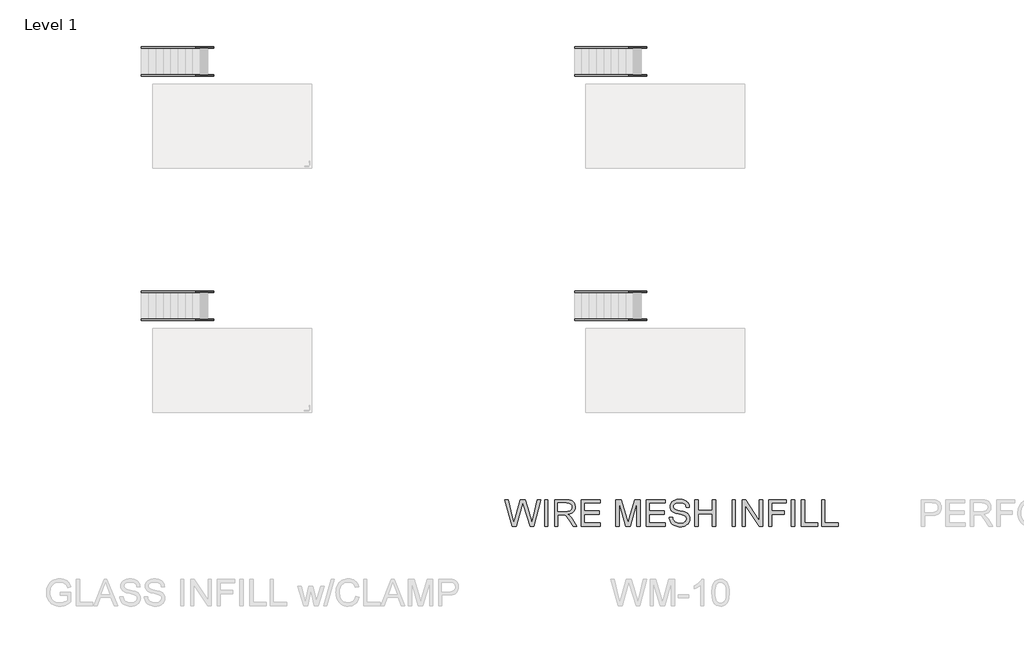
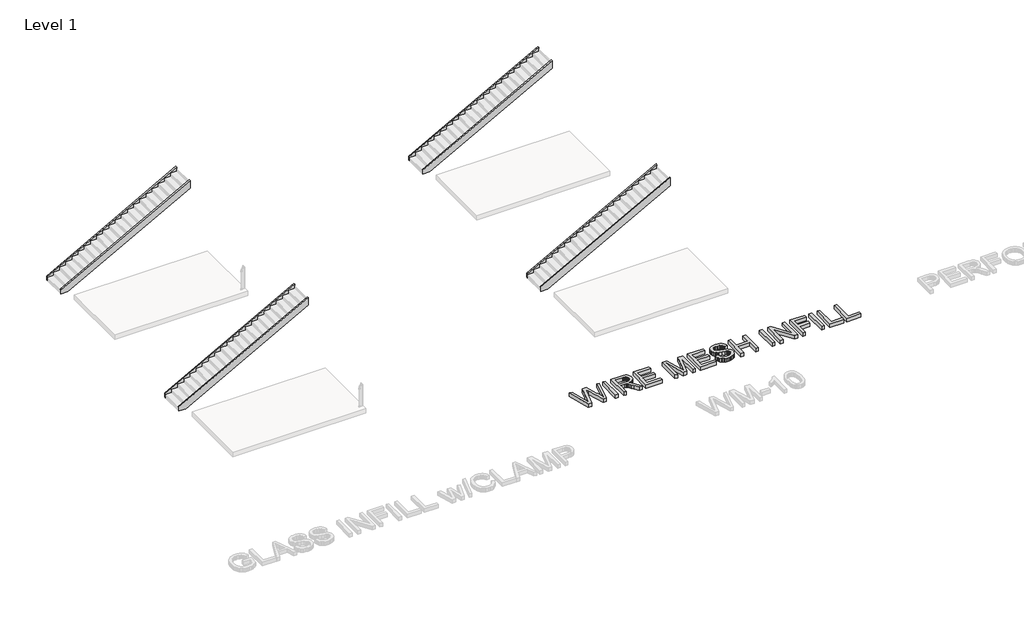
# One storey, part 4 of 8: 8 members, 1 proxy.
"""IFC4 building model written with IfcOpenShell, lengths in millimetres."""

import ifcopenshell
import ifcopenshell.guid

model = None  # the IFC model being written
_history = None  # IfcOwnerHistory: only IFC2X3 demands one
_inside = {}  # id of a spatial element -> (the spatial element, [elements in it])
_under = {}  # id of a project, library or spatial element -> (it, [spatial elements below it])
_declared = {}  # id of a project -> (the project, [libraries it declares])
_typed = {}  # id of a type object -> (the type object, [elements of that type])
_made_of = {}  # id of a material, layer set ... -> (it, [elements and type objects made of it])


def new_model(schema):
    """Start an empty IFC model of exactly this schema.

    Asked for "IFC4X3", IfcOpenShell would pick the latest addendum, in which some entities
    have other attributes; the version numbers below select the first issue.
    IFC2X3 requires an IfcOwnerHistory on every rooted entity: one is made here for all.
    """
    global model, _history
    if schema == "IFC4X3":
        model = ifcopenshell.file(schema_version=(4, 3, 0, 0))
    else:
        model = ifcopenshell.file(schema=schema)
    _inside.clear()
    _under.clear()
    _declared.clear()
    _typed.clear()
    _made_of.clear()
    _history = None
    if model.schema == "IFC2X3":
        org = make("IfcOrganization", Name="unknown")
        user = make(
            "IfcPersonAndOrganization",
            ThePerson=make("IfcPerson", FamilyName="unknown"),
            TheOrganization=org,
        )
        app = make(
            "IfcApplication",
            ApplicationDeveloper=org,
            Version="unknown",
            ApplicationFullName="unknown",
            ApplicationIdentifier="unknown",
        )
        _history = make(
            "IfcOwnerHistory",
            OwningUser=user,
            OwningApplication=app,
            ChangeAction="ADDED",
            CreationDate=0,
        )
    return model


def make(cls, **values):
    """One entity of the class cls with the attributes given. An attribute that is None is left unset."""
    return model.create_entity(
        cls, **{name: value for name, value in values.items() if value is not None}
    )


def rooted(cls, **values):
    """An entity with a GlobalId (a new one), such as an element, a storey or a relation."""
    return make(cls, GlobalId=ifcopenshell.guid.new(), OwnerHistory=_history, **values)


def si_unit(unit_type, name, prefix=None):
    """IfcSIUnit, for example si_unit("LENGTHUNIT", "METRE", prefix="MILLI")."""
    return make("IfcSIUnit", UnitType=unit_type, Prefix=prefix, Name=name)


def assignment(units):
    """IfcUnitAssignment: the units of a project."""
    return None if units is None else make("IfcUnitAssignment", Units=units)


def point(xyz):
    """IfcCartesianPoint."""
    return None if xyz is None else make("IfcCartesianPoint", Coordinates=xyz)


def direction(xyz):
    """IfcDirection."""
    return None if xyz is None else make("IfcDirection", DirectionRatios=xyz)


def frame(location, z_axis=None, x_axis=None):
    """IfcAxis2Placement3D, a coordinate frame: its origin and axes. An axis left out is left unset."""
    return make(
        "IfcAxis2Placement3D",
        Location=point(location),
        Axis=direction(z_axis),
        RefDirection=direction(x_axis),
    )


def origin():
    """The frame at (0, 0, 0) with its axes left unset."""
    return frame((0.0, 0.0, 0.0))


def place(relative_to, where):
    """IfcLocalPlacement: puts the frame where relative to a parent placement (None: the world)."""
    return make(
        "IfcLocalPlacement", PlacementRelTo=relative_to, RelativePlacement=where
    )


def context(
    kind, dimensions, precision=None, world=None, true_north=None, identifier=None
):
    """IfcGeometricRepresentationContext, for example the 3D "Model" context."""
    return make(
        "IfcGeometricRepresentationContext",
        ContextIdentifier=identifier,
        ContextType=kind,
        CoordinateSpaceDimension=dimensions,
        Precision=precision,
        WorldCoordinateSystem=world,
        TrueNorth=true_north,
    )


def project(units=None, contexts=None):
    """IfcProject with its units and contexts."""
    return rooted(
        "IfcProject",
        Name="project",
        RepresentationContexts=contexts,
        UnitsInContext=assignment(units),
    )


def spatial(cls, under=None, at=None, **own):
    """A site, building, storey or space (cls), placed at a placement, below another one or the project."""
    s = rooted(cls, ObjectPlacement=at, **own)
    if under is not None:
        _under.setdefault(under.id(), (under, []))[1].append(s)
    return s


def polyline(points):
    """IfcPolyline through the points."""
    return make("IfcPolyline", Points=[point(p) for p in points])


def outline(outer, holes=None, kind="AREA"):
    """IfcArbitraryClosedProfileDef: a profile drawn as a closed curve; with holes, ...WithVoids."""
    if holes is None:
        return make("IfcArbitraryClosedProfileDef", ProfileType=kind, OuterCurve=outer)
    return make(
        "IfcArbitraryProfileDefWithVoids",
        ProfileType=kind,
        OuterCurve=outer,
        InnerCurves=holes,
    )


def extrude(swept, where, along, depth):
    """IfcExtrudedAreaSolid: the profile swept, set in the frame where, extruded along a direction by depth."""
    return make(
        "IfcExtrudedAreaSolid",
        SweptArea=swept,
        Position=where,
        ExtrudedDirection=direction(along),
        Depth=depth,
    )


def faces_of(points, faces, orient=None, outer=None):
    """IfcFace entities. A face is a list of loops; a loop is a list of indices into points, from 0.

    orient and outer hold one flag for each loop. By default every Orientation is true, the
    first loop of a face is its IfcFaceOuterBound and the others are IfcFaceBound.
    """
    made = []
    for i, loops in enumerate(faces):
        bounds = []
        for j, loop in enumerate(loops):
            is_outer = j == 0 if outer is None else outer[i][j]
            bounds.append(
                make(
                    "IfcFaceOuterBound" if is_outer else "IfcFaceBound",
                    Bound=make("IfcPolyLoop", Polygon=[points[k] for k in loop]),
                    Orientation=True if orient is None else orient[i][j],
                )
            )
        made.append(make("IfcFace", Bounds=bounds))
    return made


def faceted_brep(points, faces, orient=None, outer=None, voids=None):
    """IfcFacetedBrep: a solid bounded by flat faces; with voids (closed shells), ...WithVoids."""
    shared = [point(p) for p in points]
    hull = make("IfcClosedShell", CfsFaces=faces_of(shared, faces, orient, outer))
    if voids is None:
        return make("IfcFacetedBrep", Outer=hull)
    return make(
        "IfcFacetedBrepWithVoids",
        Outer=hull,
        Voids=[
            make(cls, CfsFaces=faces_of(shared, fs, o, b)) for cls, fs, o, b in voids
        ],
    )


def shape(context_of_items, identifier, shape_type, items):
    """IfcShapeRepresentation: the items that make up one representation, for example the "Body"."""
    return make(
        "IfcShapeRepresentation",
        ContextOfItems=context_of_items,
        RepresentationIdentifier=identifier,
        RepresentationType=shape_type,
        Items=items,
    )


def made_of(thing, what):
    """Note that an element or type object is made of a material, layer set ...; save() writes the relation."""
    if what is not None:
        _made_of.setdefault(what.id(), (what, []))[1].append(thing)
    return thing


def element(
    cls,
    number,
    at=None,
    inside=None,
    cuts=None,
    type_object=None,
    material=None,
    context=None,
    identifier="Body",
    shape_type=None,
    held_by="IfcProductDefinitionShape",
    body=None,
    shapes=None,
    **own,
):
    """One element of the class cls, such as IfcWall. Its Tag is "e" and its number.

    at: its placement. inside: the storey or other place that contains it. cuts: it is an
    opening in that element (IfcRelVoidsElement). A single representation is given by context,
    identifier, shape_type and body (its items); several are given by shapes. held_by: the class
    of the entity that holds the representations. save() writes the other relations.
    """
    e = rooted(cls, Tag="e%d" % number, ObjectPlacement=at, **own)
    if body is not None:
        shapes = [shape(context, identifier, shape_type, body)]
    if shapes is not None:
        e.Representation = make(held_by, Representations=shapes)
    if inside is not None:
        _inside.setdefault(inside.id(), (inside, []))[1].append(e)
    if cuts is not None:
        rooted(
            "IfcRelVoidsElement", RelatingBuildingElement=cuts, RelatedOpeningElement=e
        )
    if type_object is not None:
        _typed.setdefault(type_object.id(), (type_object, []))[1].append(e)
    return made_of(e, material)


def aggregate(whole, parts):
    """IfcRelAggregates: a whole, such as a stair, and the parts it consists of."""
    return rooted("IfcRelAggregates", RelatingObject=whole, RelatedObjects=parts)


def save(model, path):
    """Write the relations noted so far, then the file.

    IfcRelAggregates (storeys below a building ...), IfcRelContainedInSpatialStructure (elements
    in a storey), IfcRelDefinesByType, IfcRelAssociatesMaterial and IfcRelDeclares: one each for
    every whole, place, type object, material and project.
    """
    for whole, parts in _under.values():
        aggregate(whole, parts)
    for where, things in _inside.values():
        rooted(
            "IfcRelContainedInSpatialStructure",
            RelatedElements=things,
            RelatingStructure=where,
        )
    for kind, things in _typed.values():
        rooted("IfcRelDefinesByType", RelatedObjects=things, RelatingType=kind)
    for what, things in _made_of.values():
        rooted("IfcRelAssociatesMaterial", RelatedObjects=things, RelatingMaterial=what)
    for by, libraries in _declared.values():
        rooted("IfcRelDeclares", RelatingContext=by, RelatedDefinitions=libraries)
    model.write(path)


model = new_model("IFC4")

# Units and contexts
model_context = context("Model", 3, world=origin())
ifc_project = project(units=[si_unit("LENGTHUNIT", "METRE", prefix="MILLI")], contexts=[model_context])

# Site, building, storey
site = spatial("IfcSite", under=ifc_project)
building = spatial("IfcBuilding", under=site)
storey = spatial("IfcBuildingStorey", under=building, Name="Level 1", Elevation=0.0)

# Proxy
placement = place(None, origin())
element("IfcBuildingElementProxy", 1, Name="36\" Arial", ObjectType="36\" Arial", at=placement, inside=storey, context=model_context, shape_type="Brep", body=[
    faceted_brep([(11048.623229, -17294.991279, 152.4), (11186.4814791, -17294.991279, 152.4), (11386.130563, -16610.1614606, 152.4), (11420.4835897, -16491.7104399, 152.4), (11451.0443992, -16590.0850164, 152.4), (11670.1007124, -17294.991279, 152.4), (11792.1208788, -17294.991279, 152.4), (12041.5149299, -16381.2899968, 152.4), (11923.733124, -16381.2899968, 152.4), (11777.8442963, -16987.1524681, 152.4), (11734.5684054, -17167.171251, 152.4), (11715.6491452, -17083.2405607, 152.4), (11693.0213196, -16999.4214063, 152.4), (11666.6849285, -16915.7137876, 152.4), (11636.6399721, -16832.1177047, 152.4), (11505.0277269, -16381.2899968, 152.4), (11335.2702377, -16381.2899968, 152.4), (11154.1360968, -17003.2136235, 152.4), (11106.3987739, -17167.171251, 152.4), (11061.7844535, -16981.7987497, 152.4), (10917.2340554, -16381.2899968, 152.4), (10799.4522494, -16381.2899968, 152.4), (11048.623229, -17294.991279, 0.0), (10799.4522494, -16381.2899968, 0.0), (10917.2340554, -16381.2899968, 0.0), (11061.7844535, -16981.7987497, 0.0), (11106.3987739, -17167.171251, 0.0), (11154.1360968, -17003.2136235, 0.0), (11335.2702377, -16381.2899968, 0.0), (11505.0277269, -16381.2899968, 0.0), (11636.6399721, -16832.1177047, 0.0), (11666.6849285, -16915.7137876, 0.0), (11693.0213196, -16999.4214063, 0.0), (11715.6491452, -17083.2405607, 0.0), (11734.5684054, -17167.171251, 0.0), (11777.8442963, -16987.1524681, 0.0), (11923.733124, -16381.2899968, 0.0), (12041.5149299, -16381.2899968, 0.0), (11792.1208788, -17294.991279, 0.0), (11670.1007124, -17294.991279, 0.0), (11451.0443992, -16590.0850164, 0.0), (11420.4835897, -16491.7104399, 0.0), (11386.130563, -16610.1614606, 0.0), (11186.4814791, -17294.991279, 0.0)], [[[0, 1, 2, 3, 4, 5, 6, 7, 8, 9, 10, 11, 12, 13, 14, 15, 16, 17, 18, 19, 20, 21]], [[22, 23, 24, 25, 26, 27, 28, 29, 30, 31, 32, 33, 34, 35, 36, 37, 38, 39, 40, 41, 42, 43]], [[3, 2, 42, 41]], [[4, 3, 41, 40]], [[5, 4, 40, 39]], [[6, 5, 39, 38]], [[7, 6, 38, 37]], [[8, 7, 37, 36]], [[9, 8, 36, 35]], [[10, 9, 35, 34]], [[11, 10, 34, 33]], [[12, 11, 33, 32]], [[13, 12, 32, 31]], [[14, 13, 31, 30]], [[15, 14, 30, 29]], [[16, 15, 29, 28]], [[17, 16, 28, 27]], [[18, 17, 27, 26]], [[19, 18, 26, 25]], [[20, 19, 25, 24]], [[21, 20, 24, 23]], [[0, 21, 23, 22]], [[1, 0, 22, 43]], [[2, 1, 43, 42]]]),
    faceted_brep([(12170.0041727, -17294.991279, 152.4), (12284.216833, -17294.991279, 152.4), (12284.216833, -16381.2899968, 152.4), (12170.0041727, -16381.2899968, 152.4), (12170.0041727, -17294.991279, 0.0), (12170.0041727, -16381.2899968, 0.0), (12284.216833, -16381.2899968, 0.0), (12284.216833, -17294.991279, 0.0)], [[[0, 1, 2, 3]], [[4, 5, 6, 7]], [[3, 2, 6, 5]], [[0, 3, 5, 4]], [[1, 0, 4, 7]], [[2, 1, 7, 6]]]),
    faceted_brep([(12512.6421536, -17294.991279, 152.4), (12626.8548139, -17294.991279, 152.4), (12626.8548139, -16895.2469681, 152.4), (12764.7130639, -16895.2469681, 152.4), (12830.9653298, -16899.2622569, 152.4), (12858.3752529, -16907.7110938, 152.4), (12885.2832649, -16921.0117381, 152.4), (12913.6970102, -16943.6813897, 152.4), (12945.6241333, -16980.2372485, 152.4), (12983.9366809, -17033.3282898, 152.4), (13031.5067001, -17105.6034889, 152.4), (13150.403864, -17294.991279, 152.4), (13283.1314672, -17294.991279, 152.4), (13130.773563, -17047.3818007, 152.4), (13084.9881167, -16985.3121274, 152.4), (13038.1988481, -16929.8230664, 152.4), (13010.9283448, -16905.5640297, 152.4), (12973.2850119, -16880.9703855, 152.4), (13033.758329, -16868.8826931, 152.4), (13085.7967512, -16850.6884156, 152.4), (13129.4002784, -16826.3875529, 152.4), (13164.5689107, -16795.9801051, 152.4), (13191.6511974, -16760.5953723, 152.4), (13210.9956879, -16721.3626542, 152.4), (13222.6023822, -16678.2819511, 152.4), (13226.4712803, -16631.3532628, 152.4), (13224.1359995, -16594.3582318, 152.4), (13217.130157, -16558.9944119, 152.4), (13205.4537528, -16525.261803, 152.4), (13189.1067869, -16493.1604053, 152.4), (13168.8490971, -16464.2447489, 152.4), (13145.4405208, -16440.069364, 152.4), (13118.8810582, -16420.6342507, 152.4), (13089.1707092, -16405.9394089, 152.4), (13054.2809164, -16395.1552911, 152.4), (13012.1831225, -16387.4523498, 152.4), (12962.8773275, -16382.8305851, 152.4), (12906.3635313, -16381.2899968, 152.4), (12512.6421536, -16381.2899968, 152.4), (12626.8548139, -16781.0343078, 152.4), (12626.8548139, -16495.5026571, 152.4), (12911.2711065, -16495.5026571, 152.4), (12959.9634547, -16497.9703867, 152.4), (13001.6429893, -16505.3735755, 152.4), (13036.3097105, -16517.7122235, 152.4), (13063.9636182, -16534.9863307, 152.4), (13085.0926815, -16556.0805391, 152.4), (13100.1848696, -16579.8794906, 152.4), (13109.2401824, -16606.3831853, 152.4), (13112.25862, -16635.5916232, 152.4), (13110.6762058, -16656.1630075, 152.4), (13105.9289633, -16675.9396993, 152.4), (13098.0168924, -16694.9216984, 152.4), (13086.9399932, -16713.109005, 152.4), (13072.8167724, -16729.6860134, 152.4), (13055.7657368, -16743.8371181, 152.4), (13035.7868864, -16755.5623192, 152.4), (13012.8802213, -16764.8616166, 152.4), (12955.9133109, -16776.991135, 152.4), (12882.4948699, -16781.0343078, 152.4), (12512.6421536, -17294.991279, 0.0), (12512.6421536, -16381.2899968, 0.0), (12906.3635313, -16381.2899968, 0.0), (12962.8773275, -16382.8305851, 0.0), (13012.1831225, -16387.4523498, 0.0), (13054.2809164, -16395.1552911, 0.0), (13089.1707092, -16405.9394089, 0.0), (13118.8810582, -16420.6342507, 0.0), (13145.4405208, -16440.069364, 0.0), (13168.8490971, -16464.2447489, 0.0), (13189.1067869, -16493.1604053, 0.0), (13205.4537528, -16525.261803, 0.0), (13217.130157, -16558.9944119, 0.0), (13224.1359995, -16594.3582318, 0.0), (13226.4712803, -16631.3532628, 0.0), (13222.6023822, -16678.2819511, 0.0), (13210.9956879, -16721.3626542, 0.0), (13191.6511974, -16760.5953723, 0.0), (13164.5689107, -16795.9801051, 0.0), (13129.4002784, -16826.3875529, 0.0), (13085.7967512, -16850.6884156, 0.0), (13033.758329, -16868.8826931, 0.0), (12973.2850119, -16880.9703855, 0.0), (13010.9283448, -16905.5640297, 0.0), (13038.1988481, -16929.8230664, 0.0), (13084.9881167, -16985.3121274, 0.0), (13130.773563, -17047.3818007, 0.0), (13283.1314672, -17294.991279, 0.0), (13150.403864, -17294.991279, 0.0), (13031.5067001, -17105.6034889, 0.0), (12983.9366809, -17033.3282898, 0.0), (12945.6241333, -16980.2372485, 0.0), (12913.6970102, -16943.6813897, 0.0), (12885.2832649, -16921.0117381, 0.0), (12858.3752529, -16907.7110938, 0.0), (12830.9653298, -16899.2622569, 0.0), (12764.7130639, -16895.2469681, 0.0), (12626.8548139, -16895.2469681, 0.0), (12626.8548139, -17294.991279, 0.0), (12626.8548139, -16781.0343078, 0.0), (12882.4948699, -16781.0343078, 0.0), (12955.9133109, -16776.991135, 0.0), (13012.8802213, -16764.8616166, 0.0), (13035.7868864, -16755.5623192, 0.0), (13055.7657368, -16743.8371181, 0.0), (13072.8167724, -16729.6860134, 0.0), (13086.9399932, -16713.109005, 0.0), (13098.0168924, -16694.9216984, 0.0), (13105.9289633, -16675.9396993, 0.0), (13110.6762058, -16656.1630075, 0.0), (13112.25862, -16635.5916232, 0.0), (13109.2401824, -16606.3831853, 0.0), (13100.1848696, -16579.8794906, 0.0), (13085.0926815, -16556.0805391, 0.0), (13063.9636182, -16534.9863307, 0.0), (13036.3097105, -16517.7122235, 0.0), (13001.6429893, -16505.3735755, 0.0), (12959.9634547, -16497.9703867, 0.0), (12911.2711065, -16495.5026571, 0.0), (12626.8548139, -16495.5026571, 0.0)], [[[0, 1, 2, 3, 4, 5, 6, 7, 8, 9, 10, 11, 12, 13, 14, 15, 16, 17, 18, 19, 20, 21, 22, 23, 24, 25, 26, 27, 28, 29, 30, 31, 32, 33, 34, 35, 36, 37, 38], [39, 40, 41, 42, 43, 44, 45, 46, 47, 48, 49, 50, 51, 52, 53, 54, 55, 56, 57, 58, 59]], [[60, 61, 62, 63, 64, 65, 66, 67, 68, 69, 70, 71, 72, 73, 74, 75, 76, 77, 78, 79, 80, 81, 82, 83, 84, 85, 86, 87, 88, 89, 90, 91, 92, 93, 94, 95, 96, 97, 98], [99, 100, 101, 102, 103, 104, 105, 106, 107, 108, 109, 110, 111, 112, 113, 114, 115, 116, 117, 118, 119]], [[7, 6, 93, 92]], [[8, 7, 92, 91]], [[9, 8, 91, 90]], [[10, 9, 90, 89]], [[11, 10, 89, 88]], [[12, 11, 88, 87]], [[13, 12, 87, 86]], [[14, 13, 86, 85]], [[15, 14, 85, 84]], [[16, 15, 84, 83]], [[17, 16, 83, 82]], [[18, 17, 82, 81]], [[19, 18, 81, 80]], [[20, 19, 80, 79]], [[21, 20, 79, 78]], [[22, 21, 78, 77]], [[23, 22, 77, 76]], [[24, 23, 76, 75]], [[25, 24, 75, 74]], [[26, 25, 74, 73]], [[27, 26, 73, 72]], [[28, 27, 72, 71]], [[29, 28, 71, 70]], [[30, 29, 70, 69]], [[31, 30, 69, 68]], [[32, 31, 68, 67]], [[33, 32, 67, 66]], [[34, 33, 66, 65]], [[35, 34, 65, 64]], [[36, 35, 64, 63]], [[37, 36, 63, 62]], [[38, 37, 62, 61]], [[0, 38, 61, 60]], [[50, 49, 110, 109]], [[51, 50, 109, 108]], [[52, 51, 108, 107]], [[53, 52, 107, 106]], [[54, 53, 106, 105]], [[55, 54, 105, 104]], [[56, 55, 104, 103]], [[57, 56, 103, 102]], [[58, 57, 102, 101]], [[59, 58, 101, 100]], [[39, 59, 100, 99]], [[1, 0, 60, 98]], [[2, 1, 98, 97]], [[3, 2, 97, 96]], [[4, 3, 96, 95]], [[5, 4, 95, 94]], [[6, 5, 94, 93]], [[40, 39, 99, 119]], [[41, 40, 119, 118]], [[42, 41, 118, 117]], [[43, 42, 117, 116]], [[44, 43, 116, 115]], [[45, 44, 115, 114]], [[46, 45, 114, 113]], [[47, 46, 113, 112]], [[48, 47, 112, 111]], [[49, 48, 111, 110]]]),
    faceted_brep([(13426.3434358, -17294.991279, 152.4), (14097.3428149, -17294.991279, 152.4), (14097.3428149, -17180.7786188, 152.4), (13540.5560961, -17180.7786188, 152.4), (13540.5560961, -16880.9703855, 152.4), (14054.5130673, -16880.9703855, 152.4), (14054.5130673, -16766.7577253, 152.4), (13540.5560961, -16766.7577253, 152.4), (13540.5560961, -16495.5026571, 152.4), (14083.0662324, -16495.5026571, 152.4), (14083.0662324, -16381.2899968, 152.4), (13426.3434358, -16381.2899968, 152.4), (13426.3434358, -17294.991279, 0.0), (13426.3434358, -16381.2899968, 0.0), (14083.0662324, -16381.2899968, 0.0), (14083.0662324, -16495.5026571, 0.0), (13540.5560961, -16495.5026571, 0.0), (13540.5560961, -16766.7577253, 0.0), (14054.5130673, -16766.7577253, 0.0), (14054.5130673, -16880.9703855, 0.0), (13540.5560961, -16880.9703855, 0.0), (13540.5560961, -17180.7786188, 0.0), (14097.3428149, -17180.7786188, 0.0), (14097.3428149, -17294.991279, 0.0)], [[[0, 1, 2, 3, 4, 5, 6, 7, 8, 9, 10, 11]], [[12, 13, 14, 15, 16, 17, 18, 19, 20, 21, 22, 23]], [[11, 10, 14, 13]], [[0, 11, 13, 12]], [[1, 0, 12, 23]], [[2, 1, 23, 22]], [[3, 2, 22, 21]], [[4, 3, 21, 20]], [[5, 4, 20, 19]], [[6, 5, 19, 18]], [[7, 6, 18, 17]], [[8, 7, 17, 16]], [[9, 8, 16, 15]], [[10, 9, 15, 14]]]),
    faceted_brep([(14625.5763687, -17294.991279, 152.4), (14739.7890289, -17294.991279, 152.4), (14739.7890289, -16495.5026571, 152.4), (14969.3297075, -17294.991279, 152.4), (15124.1413994, -17294.991279, 152.4), (15353.6820779, -16495.5026571, 152.4), (15353.6820779, -17294.991279, 152.4), (15467.8947382, -17294.991279, 152.4), (15467.8947382, -16381.2899968, 152.4), (15271.3686568, -16381.2899968, 152.4), (15087.5576566, -17014.144132, 152.4), (15046.7355534, -17159.8098882, 152.4), (15009.0364527, -17025.2977121, 152.4), (14822.1024501, -16381.2899968, 152.4), (14625.5763687, -16381.2899968, 152.4), (14625.5763687, -17294.991279, 0.0), (14625.5763687, -16381.2899968, 0.0), (14822.1024501, -16381.2899968, 0.0), (15009.0364527, -17025.2977121, 0.0), (15046.7355534, -17159.8098882, 0.0), (15087.5576566, -17014.144132, 0.0), (15271.3686568, -16381.2899968, 0.0), (15467.8947382, -16381.2899968, 0.0), (15467.8947382, -17294.991279, 0.0), (15353.6820779, -17294.991279, 0.0), (15353.6820779, -16495.5026571, 0.0), (15124.1413994, -17294.991279, 0.0), (14969.3297075, -17294.991279, 0.0), (14739.7890289, -16495.5026571, 0.0), (14739.7890289, -17294.991279, 0.0)], [[[0, 1, 2, 3, 4, 5, 6, 7, 8, 9, 10, 11, 12, 13, 14]], [[15, 16, 17, 18, 19, 20, 21, 22, 23, 24, 25, 26, 27, 28, 29]], [[11, 10, 20, 19]], [[12, 11, 19, 18]], [[13, 12, 18, 17]], [[14, 13, 17, 16]], [[0, 14, 16, 15]], [[1, 0, 15, 29]], [[2, 1, 29, 28]], [[3, 2, 28, 27]], [[4, 3, 27, 26]], [[5, 4, 26, 25]], [[6, 5, 25, 24]], [[7, 6, 24, 23]], [[8, 7, 23, 22]], [[9, 8, 22, 21]], [[10, 9, 21, 20]]]),
    faceted_brep([(15667.7668937, -17294.991279, 152.4), (16338.7662728, -17294.991279, 152.4), (16338.7662728, -17180.7786188, 152.4), (15781.979554, -17180.7786188, 152.4), (15781.979554, -16880.9703855, 152.4), (16295.9365252, -16880.9703855, 152.4), (16295.9365252, -16766.7577253, 152.4), (15781.979554, -16766.7577253, 152.4), (15781.979554, -16495.5026571, 152.4), (16324.4896903, -16495.5026571, 152.4), (16324.4896903, -16381.2899968, 152.4), (15667.7668937, -16381.2899968, 152.4), (15667.7668937, -17294.991279, 0.0), (15667.7668937, -16381.2899968, 0.0), (16324.4896903, -16381.2899968, 0.0), (16324.4896903, -16495.5026571, 0.0), (15781.979554, -16495.5026571, 0.0), (15781.979554, -16766.7577253, 0.0), (16295.9365252, -16766.7577253, 0.0), (16295.9365252, -16880.9703855, 0.0), (15781.979554, -16880.9703855, 0.0), (15781.979554, -17180.7786188, 0.0), (16338.7662728, -17180.7786188, 0.0), (16338.7662728, -17294.991279, 0.0)], [[[0, 1, 2, 3, 4, 5, 6, 7, 8, 9, 10, 11]], [[12, 13, 14, 15, 16, 17, 18, 19, 20, 21, 22, 23]], [[11, 10, 14, 13]], [[0, 11, 13, 12]], [[1, 0, 12, 23]], [[2, 1, 23, 22]], [[3, 2, 22, 21]], [[4, 3, 21, 20]], [[5, 4, 20, 19]], [[6, 5, 19, 18]], [[7, 6, 18, 17]], [[8, 7, 17, 16]], [[9, 8, 16, 15]], [[10, 9, 15, 14]]]),
    faceted_brep([(16467.2555156, -16980.9064633, 152.4), (16471.2568625, -17028.2812948, 152.4), (16480.8071154, -17073.1465708, 152.4), (16495.9062745, -17115.5022912, 152.4), (16516.5543397, -17155.3484561, 152.4), (16542.186661, -17191.5139396, 152.4), (16572.2385884, -17222.8276158, 152.4), (16606.7101219, -17249.2894846, 152.4), (16645.6012615, -17270.899546, 152.4), (16689.1769048, -17287.6856841, 152.4), (16737.7019492, -17299.6757827, 152.4), (16791.1763948, -17306.8698419, 152.4), (16849.6002416, -17309.2678616, 152.4), (16896.3685972, -17307.0441165, 152.4), (16940.752875, -17300.3728814, 152.4), (16982.7530751, -17289.2541563, 152.4), (17022.3691974, -17273.687941, 152.4), (17058.5486229, -17254.113408, 152.4), (17090.2387324, -17230.9697292, 152.4), (17117.4395259, -17204.2569049, 152.4), (17140.1510034, -17173.9749349, 152.4), (17158.0594704, -17141.385568, 152.4), (17170.8512326, -17107.750553, 152.4), (17178.5262899, -17073.0698899, 152.4), (17181.0846423, -17037.3435786, 152.4), (17178.8608973, -17001.833368, 152.4), (17172.1896622, -16968.4702215, 152.4), (17161.070937, -16937.2541391, 152.4), (17145.5047218, -16908.185121, 152.4), (17125.2540029, -16881.4025868, 152.4), (17100.0817668, -16857.0459562, 152.4), (17069.9880135, -16835.1152293, 152.4), (17034.972743, -16815.6104061, 152.4), (17003.1013878, -16802.7419631, 152.4), (16958.7937908, -16788.8975818, 152.4), (16832.8698715, -16758.2810044, 152.4), (16764.6657291, -16742.0804293, 152.4), (16710.8497051, -16726.0471579, 152.4), (16671.4217994, -16710.1811902, 152.4), (16646.3820121, -16694.4825262, 152.4), (16630.4742185, -16677.9055178, 152.4), (16619.1115087, -16659.1814452, 152.4), (16612.2938829, -16638.3103084, 152.4), (16610.021341, -16615.2921074, 152.4), (16613.2279952, -16588.5374572, 152.4), (16622.8479581, -16563.8183353, 152.4), (16638.8812295, -16541.1347417, 152.4), (16661.3278094, -16520.4866765, 152.4), (16690.7872029, -16503.3101632, 152.4), (16727.8589148, -16491.0412251, 152.4), (16772.5429451, -16483.6798622, 152.4), (16824.8392938, -16481.2260746, 152.4), (16875.5183734, -16483.7077461, 152.4), (16919.5889568, -16491.1527609, 152.4), (16957.051044, -16503.5611187, 152.4), (16987.9046349, -16520.9328198, 152.4), (17012.6098149, -16543.1563281, 152.4), (17031.6266689, -16570.120108, 152.4), (17044.9551972, -16601.8241595, 152.4), (17052.5953995, -16638.2684825, 152.4), (17166.8080598, -16638.2684825, 152.4), (17162.8067129, -16599.3843138, 152.4), (17153.9256748, -16562.5914414, 152.4), (17140.1649453, -16527.8898653, 152.4), (17121.5245246, -16495.2795855, 152.4), (17098.1856582, -16465.6250044, 152.4), (17070.3295919, -16439.7905245, 152.4), (17037.9563256, -16417.7761458, 152.4), (17001.0658594, -16399.5818682, 152.4), (16960.41106, -16385.3331696, 152.4), (16916.7447939, -16375.1555278, 152.4), (16870.0670611, -16369.0489427, 152.4), (16820.3778617, -16367.0134143, 152.4), (16774.829429, -16368.9583198, 152.4), (16731.4280604, -16374.7930364, 152.4), (16690.173756, -16384.5175641, 152.4), (16651.0665157, -16398.1319028, 152.4), (16615.3123205, -16415.5036038, 152.4), (16584.1171512, -16436.5002184, 152.4), (16557.4810077, -16461.1217464, 152.4), (16535.4038901, -16489.3681881, 152.4), (16518.080986, -16519.9917364, 152.4), (16505.707483, -16551.7445848, 152.4), (16498.2833813, -16584.6267331, 152.4), (16495.8086807, -16618.6381815, 152.4), (16497.8093541, -16649.3244687, 152.4), (16503.8113744, -16678.4771387, 152.4), (16513.8147416, -16706.0961915, 152.4), (16527.8194556, -16732.1816269, 152.4), (16545.8952263, -16756.4824896, 152.4), (16568.1117637, -16778.7478239, 152.4), (16594.4690677, -16798.9776298, 152.4), (16624.9671383, -16817.1719073, 152.4), (16654.9772398, -16830.7304782, 152.4), (16694.8164337, -16844.6375983, 152.4), (16803.982099, -16873.4974869, 152.4), (16909.9689939, -16899.1786051, 152.4), (16970.2819784, -16917.1079851, 152.4), (16997.1342225, -16928.380072, 152.4), (17019.0231234, -16940.7814589, 152.4), (17035.9486812, -16954.3121457, 152.4), (17047.9108959, -16968.9721326, 152.4), (17062.1317105, -17002.0146136, 152.4), (17066.8719821, -17040.2435094, 152.4), (17065.2895679, -17060.089911, 152.4), (17060.5423254, -17079.4762275, 152.4), (17041.5533552, -17116.8686048, 152.4), (17027.2419178, -17134.12877, 152.4), (17009.6262322, -17149.4370587, 152.4), (16988.7062985, -17162.7934708, 152.4), (16964.4821167, -17174.1980065, 152.4), (16908.7699841, -17189.8409026, 152.4), (16845.1388096, -17195.0552013, 152.4), (16808.0531557, -17193.3333674, 152.4), (16772.8636105, -17188.1678656, 152.4), (16739.5701739, -17179.5586959, 152.4), (16708.1728459, -17167.5058584, 152.4), (16679.7172746, -17152.6576549, 152.4), (16655.2491083, -17135.6623872, 152.4), (16634.7683468, -17116.5200554, 152.4), (16618.2749902, -17095.2306594, 152.4), (16605.0998237, -17071.313201, 152.4), (16594.5736325, -17044.2866822, 152.4), (16586.6964166, -17014.151103, 152.4), (16581.4681759, -16980.9064633, 152.4), (16467.2555156, -16980.9064633, 0.0), (16581.4681759, -16980.9064633, 0.0), (16586.6964166, -17014.151103, 0.0), (16594.5736325, -17044.2866822, 0.0), (16605.0998237, -17071.313201, 0.0), (16618.2749902, -17095.2306594, 0.0), (16634.7683468, -17116.5200554, 0.0), (16655.2491083, -17135.6623872, 0.0), (16679.7172746, -17152.6576549, 0.0), (16708.1728459, -17167.5058584, 0.0), (16739.5701739, -17179.5586959, 0.0), (16772.8636105, -17188.1678656, 0.0), (16808.0531557, -17193.3333674, 0.0), (16845.1388096, -17195.0552013, 0.0), (16908.7699841, -17189.8409026, 0.0), (16964.4821167, -17174.1980065, 0.0), (16988.7062985, -17162.7934708, 0.0), (17009.6262322, -17149.4370587, 0.0), (17027.2419178, -17134.12877, 0.0), (17041.5533552, -17116.8686048, 0.0), (17060.5423254, -17079.4762275, 0.0), (17065.2895679, -17060.089911, 0.0), (17066.8719821, -17040.2435094, 0.0), (17062.1317105, -17002.0146136, 0.0), (17047.9108959, -16968.9721326, 0.0), (17035.9486812, -16954.3121457, 0.0), (17019.0231234, -16940.7814589, 0.0), (16997.1342225, -16928.380072, 0.0), (16970.2819784, -16917.1079851, 0.0), (16909.9689939, -16899.1786051, 0.0), (16803.982099, -16873.4974869, 0.0), (16694.8164337, -16844.6375983, 0.0), (16654.9772398, -16830.7304782, 0.0), (16624.9671383, -16817.1719073, 0.0), (16594.4690677, -16798.9776298, 0.0), (16568.1117637, -16778.7478239, 0.0), (16545.8952263, -16756.4824896, 0.0), (16527.8194556, -16732.1816269, 0.0), (16513.8147416, -16706.0961915, 0.0), (16503.8113744, -16678.4771387, 0.0), (16497.8093541, -16649.3244687, 0.0), (16495.8086807, -16618.6381815, 0.0), (16498.2833813, -16584.6267331, 0.0), (16505.707483, -16551.7445848, 0.0), (16518.080986, -16519.9917364, 0.0), (16535.4038901, -16489.3681881, 0.0), (16557.4810077, -16461.1217464, 0.0), (16584.1171512, -16436.5002184, 0.0), (16615.3123205, -16415.5036038, 0.0), (16651.0665157, -16398.1319028, 0.0), (16690.173756, -16384.5175641, 0.0), (16731.4280604, -16374.7930364, 0.0), (16774.829429, -16368.9583198, 0.0), (16820.3778617, -16367.0134143, 0.0), (16870.0670611, -16369.0489427, 0.0), (16916.7447939, -16375.1555278, 0.0), (16960.41106, -16385.3331696, 0.0), (17001.0658594, -16399.5818682, 0.0), (17037.9563256, -16417.7761458, 0.0), (17070.3295919, -16439.7905245, 0.0), (17098.1856582, -16465.6250044, 0.0), (17121.5245246, -16495.2795855, 0.0), (17140.1649453, -16527.8898653, 0.0), (17153.9256748, -16562.5914414, 0.0), (17162.8067129, -16599.3843138, 0.0), (17166.8080598, -16638.2684825, 0.0), (17052.5953995, -16638.2684825, 0.0), (17044.9551972, -16601.8241595, 0.0), (17031.6266689, -16570.120108, 0.0), (17012.6098149, -16543.1563281, 0.0), (16987.9046349, -16520.9328198, 0.0), (16957.051044, -16503.5611187, 0.0), (16919.5889568, -16491.1527609, 0.0), (16875.5183734, -16483.7077461, 0.0), (16824.8392938, -16481.2260746, 0.0), (16772.5429451, -16483.6798622, 0.0), (16727.8589148, -16491.0412251, 0.0), (16690.7872029, -16503.3101632, 0.0), (16661.3278094, -16520.4866765, 0.0), (16638.8812295, -16541.1347417, 0.0), (16622.8479581, -16563.8183353, 0.0), (16613.2279952, -16588.5374572, 0.0), (16610.021341, -16615.2921074, 0.0), (16612.2938829, -16638.3103084, 0.0), (16619.1115087, -16659.1814452, 0.0), (16630.4742185, -16677.9055178, 0.0), (16646.3820121, -16694.4825262, 0.0), (16671.4217994, -16710.1811902, 0.0), (16710.8497051, -16726.0471579, 0.0), (16764.6657291, -16742.0804293, 0.0), (16832.8698715, -16758.2810044, 0.0), (16958.7937908, -16788.8975818, 0.0), (17003.1013878, -16802.7419631, 0.0), (17034.972743, -16815.6104061, 0.0), (17069.9880135, -16835.1152293, 0.0), (17100.0817668, -16857.0459562, 0.0), (17125.2540029, -16881.4025868, 0.0), (17145.5047218, -16908.185121, 0.0), (17161.070937, -16937.2541391, 0.0), (17172.1896622, -16968.4702215, 0.0), (17178.8608973, -17001.833368, 0.0), (17181.0846423, -17037.3435786, 0.0), (17178.5262899, -17073.0698899, 0.0), (17170.8512326, -17107.750553, 0.0), (17158.0594704, -17141.385568, 0.0), (17140.1510034, -17173.9749349, 0.0), (17117.4395259, -17204.2569049, 0.0), (17090.2387324, -17230.9697292, 0.0), (17058.5486229, -17254.113408, 0.0), (17022.3691974, -17273.687941, 0.0), (16982.7530751, -17289.2541563, 0.0), (16940.752875, -17300.3728814, 0.0), (16896.3685972, -17307.0441165, 0.0), (16849.6002416, -17309.2678616, 0.0), (16791.1763948, -17306.8698419, 0.0), (16737.7019492, -17299.6757827, 0.0), (16689.1769048, -17287.6856841, 0.0), (16645.6012615, -17270.899546, 0.0), (16606.7101219, -17249.2894846, 0.0), (16572.2385884, -17222.8276158, 0.0), (16542.186661, -17191.5139396, 0.0), (16516.5543397, -17155.3484561, 0.0), (16495.9062745, -17115.5022912, 0.0), (16480.8071154, -17073.1465708, 0.0), (16471.2568625, -17028.2812948, 0.0)], [[[0, 1, 2, 3, 4, 5, 6, 7, 8, 9, 10, 11, 12, 13, 14, 15, 16, 17, 18, 19, 20, 21, 22, 23, 24, 25, 26, 27, 28, 29, 30, 31, 32, 33, 34, 35, 36, 37, 38, 39, 40, 41, 42, 43, 44, 45, 46, 47, 48, 49, 50, 51, 52, 53, 54, 55, 56, 57, 58, 59, 60, 61, 62, 63, 64, 65, 66, 67, 68, 69, 70, 71, 72, 73, 74, 75, 76, 77, 78, 79, 80, 81, 82, 83, 84, 85, 86, 87, 88, 89, 90, 91, 92, 93, 94, 95, 96, 97, 98, 99, 100, 101, 102, 103, 104, 105, 106, 107, 108, 109, 110, 111, 112, 113, 114, 115, 116, 117, 118, 119, 120, 121, 122, 123, 124]], [[125, 126, 127, 128, 129, 130, 131, 132, 133, 134, 135, 136, 137, 138, 139, 140, 141, 142, 143, 144, 145, 146, 147, 148, 149, 150, 151, 152, 153, 154, 155, 156, 157, 158, 159, 160, 161, 162, 163, 164, 165, 166, 167, 168, 169, 170, 171, 172, 173, 174, 175, 176, 177, 178, 179, 180, 181, 182, 183, 184, 185, 186, 187, 188, 189, 190, 191, 192, 193, 194, 195, 196, 197, 198, 199, 200, 201, 202, 203, 204, 205, 206, 207, 208, 209, 210, 211, 212, 213, 214, 215, 216, 217, 218, 219, 220, 221, 222, 223, 224, 225, 226, 227, 228, 229, 230, 231, 232, 233, 234, 235, 236, 237, 238, 239, 240, 241, 242, 243, 244, 245, 246, 247, 248, 249]], [[37, 36, 214, 213]], [[38, 37, 213, 212]], [[39, 38, 212, 211]], [[40, 39, 211, 210]], [[41, 40, 210, 209]], [[42, 41, 209, 208]], [[43, 42, 208, 207]], [[44, 43, 207, 206]], [[45, 44, 206, 205]], [[46, 45, 205, 204]], [[47, 46, 204, 203]], [[48, 47, 203, 202]], [[49, 48, 202, 201]], [[50, 49, 201, 200]], [[51, 50, 200, 199]], [[52, 51, 199, 198]], [[53, 52, 198, 197]], [[54, 53, 197, 196]], [[55, 54, 196, 195]], [[56, 55, 195, 194]], [[57, 56, 194, 193]], [[58, 57, 193, 192]], [[59, 58, 192, 191]], [[60, 59, 191, 190]], [[61, 60, 190, 189]], [[62, 61, 189, 188]], [[63, 62, 188, 187]], [[64, 63, 187, 186]], [[65, 64, 186, 185]], [[66, 65, 185, 184]], [[67, 66, 184, 183]], [[68, 67, 183, 182]], [[69, 68, 182, 181]], [[70, 69, 181, 180]], [[71, 70, 180, 179]], [[72, 71, 179, 178]], [[73, 72, 178, 177]], [[74, 73, 177, 176]], [[75, 74, 176, 175]], [[76, 75, 175, 174]], [[77, 76, 174, 173]], [[78, 77, 173, 172]], [[79, 78, 172, 171]], [[80, 79, 171, 170]], [[81, 80, 170, 169]], [[82, 81, 169, 168]], [[83, 82, 168, 167]], [[84, 83, 167, 166]], [[85, 84, 166, 165]], [[86, 85, 165, 164]], [[87, 86, 164, 163]], [[88, 87, 163, 162]], [[89, 88, 162, 161]], [[90, 89, 161, 160]], [[91, 90, 160, 159]], [[92, 91, 159, 158]], [[93, 92, 158, 157]], [[94, 93, 157, 156]], [[95, 94, 156, 155]], [[96, 95, 155, 154]], [[97, 96, 154, 153]], [[98, 97, 153, 152]], [[99, 98, 152, 151]], [[100, 99, 151, 150]], [[101, 100, 150, 149]], [[102, 101, 149, 148]], [[103, 102, 148, 147]], [[104, 103, 147, 146]], [[105, 104, 146, 145]], [[106, 105, 145, 144]], [[107, 106, 144, 143]], [[108, 107, 143, 142]], [[109, 108, 142, 141]], [[110, 109, 141, 140]], [[111, 110, 140, 139]], [[112, 111, 139, 138]], [[113, 112, 138, 137]], [[114, 113, 137, 136]], [[115, 114, 136, 135]], [[116, 115, 135, 134]], [[117, 116, 134, 133]], [[118, 117, 133, 132]], [[119, 118, 132, 131]], [[120, 119, 131, 130]], [[121, 120, 130, 129]], [[122, 121, 129, 128]], [[123, 122, 128, 127]], [[124, 123, 127, 126]], [[0, 124, 126, 125]], [[1, 0, 125, 249]], [[2, 1, 249, 248]], [[3, 2, 248, 247]], [[4, 3, 247, 246]], [[5, 4, 246, 245]], [[6, 5, 245, 244]], [[7, 6, 244, 243]], [[8, 7, 243, 242]], [[9, 8, 242, 241]], [[10, 9, 241, 240]], [[11, 10, 240, 239]], [[12, 11, 239, 238]], [[13, 12, 238, 237]], [[14, 13, 237, 236]], [[15, 14, 236, 235]], [[16, 15, 235, 234]], [[17, 16, 234, 233]], [[18, 17, 233, 232]], [[19, 18, 232, 231]], [[20, 19, 231, 230]], [[21, 20, 230, 229]], [[22, 21, 229, 228]], [[23, 22, 228, 227]], [[24, 23, 227, 226]], [[25, 24, 226, 225]], [[26, 25, 225, 224]], [[27, 26, 224, 223]], [[28, 27, 223, 222]], [[29, 28, 222, 221]], [[30, 29, 221, 220]], [[31, 30, 220, 219]], [[32, 31, 219, 218]], [[33, 32, 218, 217]], [[34, 33, 217, 216]], [[35, 34, 216, 215]], [[36, 35, 215, 214]]]),
    faceted_brep([(17352.4036328, -17294.991279, 152.4), (17466.616293, -17294.991279, 152.4), (17466.616293, -16866.693803, 152.4), (17952.0200992, -16866.693803, 152.4), (17952.0200992, -17294.991279, 152.4), (18066.2327595, -17294.991279, 152.4), (18066.2327595, -16381.2899968, 152.4), (17952.0200992, -16381.2899968, 152.4), (17952.0200992, -16752.4811427, 152.4), (17466.616293, -16752.4811427, 152.4), (17466.616293, -16381.2899968, 152.4), (17352.4036328, -16381.2899968, 152.4), (17352.4036328, -17294.991279, 0.0), (17352.4036328, -16381.2899968, 0.0), (17466.616293, -16381.2899968, 0.0), (17466.616293, -16752.4811427, 0.0), (17952.0200992, -16752.4811427, 0.0), (17952.0200992, -16381.2899968, 0.0), (18066.2327595, -16381.2899968, 0.0), (18066.2327595, -17294.991279, 0.0), (17952.0200992, -17294.991279, 0.0), (17952.0200992, -16866.693803, 0.0), (17466.616293, -16866.693803, 0.0), (17466.616293, -17294.991279, 0.0)], [[[0, 1, 2, 3, 4, 5, 6, 7, 8, 9, 10, 11]], [[12, 13, 14, 15, 16, 17, 18, 19, 20, 21, 22, 23]], [[1, 0, 12, 23]], [[2, 1, 23, 22]], [[3, 2, 22, 21]], [[4, 3, 21, 20]], [[5, 4, 20, 19]], [[6, 5, 19, 18]], [[7, 6, 18, 17]], [[8, 7, 17, 16]], [[9, 8, 16, 15]], [[10, 9, 15, 14]], [[11, 10, 14, 13]], [[0, 11, 13, 12]]]),
    faceted_brep([(18637.2960609, -17294.991279, 152.4), (18751.5087211, -17294.991279, 152.4), (18751.5087211, -16381.2899968, 152.4), (18637.2960609, -16381.2899968, 152.4), (18637.2960609, -17294.991279, 0.0), (18637.2960609, -16381.2899968, 0.0), (18751.5087211, -16381.2899968, 0.0), (18751.5087211, -17294.991279, 0.0)], [[[0, 1, 2, 3]], [[4, 5, 6, 7]], [[1, 0, 4, 7]], [[2, 1, 7, 6]], [[3, 2, 6, 5]], [[0, 3, 5, 4]]]),
    faceted_brep([(18979.9340417, -17294.991279, 152.4), (19094.146702, -17294.991279, 152.4), (19094.146702, -16570.9008586, 152.4), (19571.5199305, -17294.991279, 152.4), (19693.7631684, -17294.991279, 152.4), (19693.7631684, -16381.2899968, 152.4), (19579.5505081, -16381.2899968, 152.4), (19579.5505081, -17105.1573457, 152.4), (19102.1772796, -16381.2899968, 152.4), (18979.9340417, -16381.2899968, 152.4), (18979.9340417, -17294.991279, 0.0), (18979.9340417, -16381.2899968, 0.0), (19102.1772796, -16381.2899968, 0.0), (19579.5505081, -17105.1573457, 0.0), (19579.5505081, -16381.2899968, 0.0), (19693.7631684, -16381.2899968, 0.0), (19693.7631684, -17294.991279, 0.0), (19571.5199305, -17294.991279, 0.0), (19094.146702, -16570.9008586, 0.0), (19094.146702, -17294.991279, 0.0)], [[[0, 1, 2, 3, 4, 5, 6, 7, 8, 9]], [[10, 11, 12, 13, 14, 15, 16, 17, 18, 19]], [[1, 0, 10, 19]], [[2, 1, 19, 18]], [[3, 2, 18, 17]], [[4, 3, 17, 16]], [[5, 4, 16, 15]], [[6, 5, 15, 14]], [[7, 6, 14, 13]], [[8, 7, 13, 12]], [[9, 8, 12, 11]], [[0, 9, 11, 10]]]),
    faceted_brep([(19893.6353239, -17294.991279, 152.4), (20007.8479842, -17294.991279, 152.4), (20007.8479842, -16880.9703855, 152.4), (20436.1454602, -16880.9703855, 152.4), (20436.1454602, -16766.7577253, 152.4), (20007.8479842, -16766.7577253, 152.4), (20007.8479842, -16495.5026571, 152.4), (20507.5283729, -16495.5026571, 152.4), (20507.5283729, -16381.2899968, 152.4), (19893.6353239, -16381.2899968, 152.4), (19893.6353239, -17294.991279, 0.0), (19893.6353239, -16381.2899968, 0.0), (20507.5283729, -16381.2899968, 0.0), (20507.5283729, -16495.5026571, 0.0), (20007.8479842, -16495.5026571, 0.0), (20007.8479842, -16766.7577253, 0.0), (20436.1454602, -16766.7577253, 0.0), (20436.1454602, -16880.9703855, 0.0), (20007.8479842, -16880.9703855, 0.0), (20007.8479842, -17294.991279, 0.0)], [[[0, 1, 2, 3, 4, 5, 6, 7, 8, 9]], [[10, 11, 12, 13, 14, 15, 16, 17, 18, 19]], [[1, 0, 10, 19]], [[2, 1, 19, 18]], [[3, 2, 18, 17]], [[4, 3, 17, 16]], [[5, 4, 16, 15]], [[6, 5, 15, 14]], [[7, 6, 14, 13]], [[8, 7, 13, 12]], [[9, 8, 12, 11]], [[0, 9, 11, 10]]]),
    faceted_brep([(20678.8473633, -17294.991279, 152.4), (20793.0600236, -17294.991279, 152.4), (20793.0600236, -16381.2899968, 152.4), (20678.8473633, -16381.2899968, 152.4), (20678.8473633, -17294.991279, 0.0), (20678.8473633, -16381.2899968, 0.0), (20793.0600236, -16381.2899968, 0.0), (20793.0600236, -17294.991279, 0.0)], [[[0, 1, 2, 3]], [[4, 5, 6, 7]], [[1, 0, 4, 7]], [[2, 1, 7, 6]], [[3, 2, 6, 5]], [[0, 3, 5, 4]]]),
    faceted_brep([(21021.4853441, -17294.991279, 152.4), (21592.5486455, -17294.991279, 152.4), (21592.5486455, -17180.7786188, 152.4), (21135.6980044, -17180.7786188, 152.4), (21135.6980044, -16381.2899968, 152.4), (21021.4853441, -16381.2899968, 152.4), (21021.4853441, -17294.991279, 0.0), (21021.4853441, -16381.2899968, 0.0), (21135.6980044, -16381.2899968, 0.0), (21135.6980044, -17180.7786188, 0.0), (21592.5486455, -17180.7786188, 0.0), (21592.5486455, -17294.991279, 0.0)], [[[0, 1, 2, 3, 4, 5]], [[6, 7, 8, 9, 10, 11]], [[1, 0, 6, 11]], [[2, 1, 11, 10]], [[3, 2, 10, 9]], [[4, 3, 9, 8]], [[5, 4, 8, 7]], [[0, 5, 7, 6]]]),
    faceted_brep([(21721.0378883, -17294.991279, 152.4), (22292.1011897, -17294.991279, 152.4), (22292.1011897, -17180.7786188, 152.4), (21835.2505486, -17180.7786188, 152.4), (21835.2505486, -16381.2899968, 152.4), (21721.0378883, -16381.2899968, 152.4), (21721.0378883, -17294.991279, 0.0), (21721.0378883, -16381.2899968, 0.0), (21835.2505486, -16381.2899968, 0.0), (21835.2505486, -17180.7786188, 0.0), (22292.1011897, -17180.7786188, 0.0), (22292.1011897, -17294.991279, 0.0)], [[[0, 1, 2, 3, 4, 5]], [[6, 7, 8, 9, 10, 11]], [[1, 0, 6, 11]], [[2, 1, 11, 10]], [[3, 2, 10, 9]], [[4, 3, 9, 8]], [[5, 4, 8, 7]], [[0, 5, 7, 6]]]),
])

# Members
element("IfcMember", 2, ObjectType="Stringer - 2\" Width", at=placement, inside=storey, context=model_context, shape_type="SweptSolid", body=[
    extrude(outline(polyline([(177.1989729, -1731.7213318), (0.0, -1731.7213318), (0.0, -1446.5856972), (2753.9260175, 3602.2786682), (3086.6535184, 3602.2786682), (177.1989729, -1731.7213318)])), frame((0.0, -9222.435031, 0.0), z_axis=(0.0, 1.0, 0.0), x_axis=(0.0, 0.0, 1.0)), (0.0, 0.0, 1.0), 50.8),
])
element("IfcMember", 3, ObjectType="Stringer - 2\" Width", at=placement, inside=storey, context=model_context, shape_type="SweptSolid", body=[
    extrude(outline(polyline([(177.1989729, -1731.7213318), (0.0, -1731.7213318), (0.0, -1446.5856972), (2753.9260175, 3602.2786682), (3086.6535184, 3602.2786682), (177.1989729, -1731.7213318)])), frame((0.0, -10187.635031, 0.0), z_axis=(0.0, 1.0, 0.0), x_axis=(0.0, 0.0, 1.0)), (0.0, 0.0, 1.0), 50.8),
])
element("IfcMember", 4, ObjectType="Stringer - 2\" Width", at=placement, inside=storey, context=model_context, shape_type="SweptSolid", body=[
    extrude(outline(polyline([(177.1989729, -1731.7213318), (0.0, -1731.7213318), (0.0, -1446.5856972), (2753.9260175, 3602.2786682), (3086.6535184, 3602.2786682), (177.1989729, -1731.7213318)])), frame((0.0, -789.635031, 0.0), z_axis=(0.0, 1.0, 0.0), x_axis=(0.0, 0.0, 1.0)), (0.0, 0.0, 1.0), 50.8),
])
element("IfcMember", 5, ObjectType="Stringer - 2\" Width", at=placement, inside=storey, context=model_context, shape_type="SweptSolid", body=[
    extrude(outline(polyline([(177.1989729, -1731.7213318), (0.0, -1731.7213318), (0.0, -1446.5856972), (2753.9260175, 3602.2786682), (3086.6535184, 3602.2786682), (177.1989729, -1731.7213318)])), frame((0.0, -1754.835031, 0.0), z_axis=(0.0, 1.0, 0.0), x_axis=(0.0, 0.0, 1.0)), (0.0, 0.0, 1.0), 50.8),
])
element("IfcMember", 6, ObjectType="Stringer - 2\" Width", at=placement, inside=storey, context=model_context, shape_type="SweptSolid", body=[
    extrude(outline(polyline([(177.1989729, 13203.4786682), (0.0, 13203.4786682), (0.0, 13488.6143028), (2753.9260175, 18537.4786682), (3086.6535184, 18537.4786682), (177.1989729, 13203.4786682)])), frame((0.0, -9222.435031, 0.0), z_axis=(0.0, 1.0, 0.0), x_axis=(0.0, 0.0, 1.0)), (0.0, 0.0, 1.0), 50.8),
])
element("IfcMember", 7, ObjectType="Stringer - 2\" Width", at=placement, inside=storey, context=model_context, shape_type="SweptSolid", body=[
    extrude(outline(polyline([(177.1989729, 13203.4786682), (0.0, 13203.4786682), (0.0, 13488.6143028), (2753.9260175, 18537.4786682), (3086.6535184, 18537.4786682), (177.1989729, 13203.4786682)])), frame((0.0, -10187.635031, 0.0), z_axis=(0.0, 1.0, 0.0), x_axis=(0.0, 0.0, 1.0)), (0.0, 0.0, 1.0), 50.8),
])
element("IfcMember", 8, ObjectType="Stringer - 2\" Width", at=placement, inside=storey, context=model_context, shape_type="SweptSolid", body=[
    extrude(outline(polyline([(177.1989729, 13203.4786682), (0.0, 13203.4786682), (0.0, 13488.6143028), (2753.9260175, 18537.4786682), (3086.6535184, 18537.4786682), (177.1989729, 13203.4786682)])), frame((0.0, -789.635031, 0.0), z_axis=(0.0, 1.0, 0.0), x_axis=(0.0, 0.0, 1.0)), (0.0, 0.0, 1.0), 50.8),
])
element("IfcMember", 9, ObjectType="Stringer - 2\" Width", at=placement, inside=storey, context=model_context, shape_type="SweptSolid", body=[
    extrude(outline(polyline([(177.1989729, 13203.4786682), (0.0, 13203.4786682), (0.0, 13488.6143028), (2753.9260175, 18537.4786682), (3086.6535184, 18537.4786682), (177.1989729, 13203.4786682)])), frame((0.0, -1754.835031, 0.0), z_axis=(0.0, 1.0, 0.0), x_axis=(0.0, 0.0, 1.0)), (0.0, 0.0, 1.0), 50.8),
])

save(model, "model.ifc")
